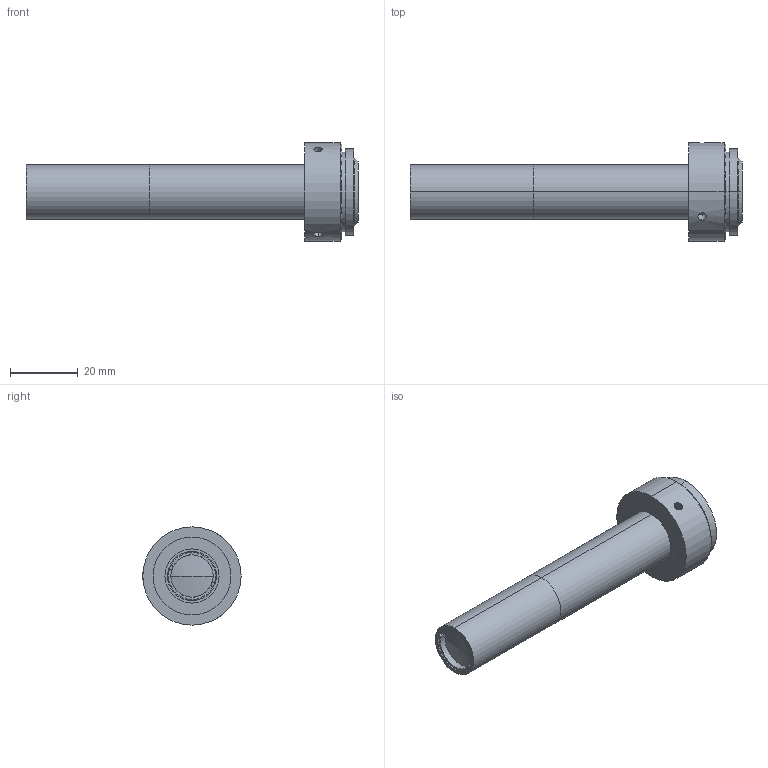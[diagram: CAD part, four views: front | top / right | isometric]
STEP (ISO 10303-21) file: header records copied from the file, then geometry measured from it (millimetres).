
FILE_DESCRIPTION (( 'STEP AP203' ), '1' );
FILE_NAME ('XF-T08X65-Y11.STEP', '2017-08-21T07:33:53', ( 'zhanghp' ), ( '' ), 'SwSTEP 2.0', 'SolidWorks 2014', '' );
FILE_SCHEMA (( 'CONFIG_CONTROL_DESIGN' ));
Length unit declared in the file: millimetre
Products named in the file (1): XF-T08X65-Y11
Bounding box: 98.03 x 29 x 29 mm (x, y, z)
Surface area: 9142.4 mm2 (no closed solid volume)
Topology: 0 solids, 8 shells, 65 faces, 160 edges, 106 vertices
Faces by surface type: cylinder 38, plane 17, cone 6, sphere 4
Entity records: 2232 total; most frequent: CARTESIAN_POINT 560, DIRECTION 368, ORIENTED_EDGE 282, EDGE_CURVE 160, AXIS2_PLACEMENT_3D 154, VERTEX_POINT 106, CIRCLE 88, EDGE_LOOP 82
